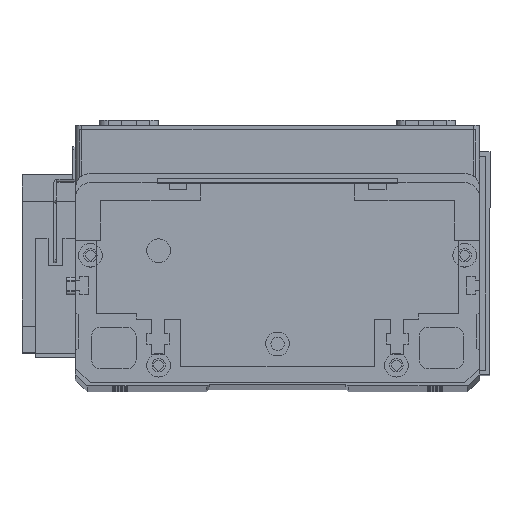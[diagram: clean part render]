
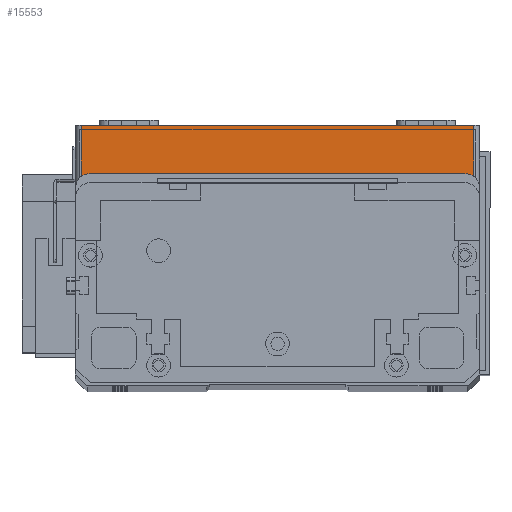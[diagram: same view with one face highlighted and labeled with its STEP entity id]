
A CAD part, top view. The second image highlights one B-rep face of the part: STEP entity #15553.
In plain terms, the highlighted planar face has unit normal (0, 0, 1) as drawn and (0, -1, 0) by its records, which use the part's own axes.
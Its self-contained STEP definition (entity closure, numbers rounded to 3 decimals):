
#28 = ORIENTED_EDGE ( 'NONE', *, *, #8689, .T. ) ;
#1525 = VECTOR ( 'NONE', #23240, 1000. ) ;
#5647 = VERTEX_POINT ( 'NONE', #18341 ) ;
#7241 = ORIENTED_EDGE ( 'NONE', *, *, #13703, .T. ) ;
#7340 = CARTESIAN_POINT ( 'NONE',  ( 134., 0., 19.5 ) ) ;
#7864 = FACE_OUTER_BOUND ( 'NONE', #10654, .T. ) ;
#8393 = VERTEX_POINT ( 'NONE', #27022 ) ;
#8564 = VECTOR ( 'NONE', #28639, 1000. ) ;
#8689 = EDGE_CURVE ( 'NONE', #5647, #27744, #22070, .T. ) ;
#9919 = VECTOR ( 'NONE', #26023, 1000. ) ;
#9974 = LINE ( 'NONE', #28779, #8564 ) ;
#10654 = EDGE_LOOP ( 'NONE', ( #13426, #7241, #28, #12780 ) ) ;
#12780 = ORIENTED_EDGE ( 'NONE', *, *, #15723, .T. ) ;
#13426 = ORIENTED_EDGE ( 'NONE', *, *, #15799, .F. ) ;
#13703 = EDGE_CURVE ( 'NONE', #8393, #5647, #9974, .T. ) ;
#14887 = LINE ( 'NONE', #23102, #1525 ) ;
#15553 = ADVANCED_FACE ( 'NONE', ( #7864 ), #26277, .F. ) ;
#15723 = EDGE_CURVE ( 'NONE', #27744, #24738, #14887, .T. ) ;
#15799 = EDGE_CURVE ( 'NONE', #8393, #24738, #23514, .T. ) ;
#18341 = CARTESIAN_POINT ( 'NONE',  ( 2., 0., 0. ) ) ;
#19714 = CARTESIAN_POINT ( 'NONE',  ( 134., 0., 0. ) ) ;
#20834 = AXIS2_PLACEMENT_3D ( 'NONE', #26309, #26221, #26212 ) ;
#21516 = DIRECTION ( 'NONE',  ( 1., 0., 0. ) ) ;
#21677 = CARTESIAN_POINT ( 'NONE',  ( 0., 0., 19.5 ) ) ;
#22070 = LINE ( 'NONE', #25930, #9919 ) ;
#23102 = CARTESIAN_POINT ( 'NONE',  ( 134., 0., 19.5 ) ) ;
#23240 = DIRECTION ( 'NONE',  ( 0., 0., 1. ) ) ;
#23514 = LINE ( 'NONE', #21677, #24187 ) ;
#24187 = VECTOR ( 'NONE', #21516, 1000. ) ;
#24738 = VERTEX_POINT ( 'NONE', #7340 ) ;
#25930 = CARTESIAN_POINT ( 'NONE',  ( 0., 0., 0. ) ) ;
#26023 = DIRECTION ( 'NONE',  ( 1., 0., 0. ) ) ;
#26212 = DIRECTION ( 'NONE',  ( 0., 0., 1. ) ) ;
#26221 = DIRECTION ( 'NONE',  ( 0., 1., 0. ) ) ;
#26277 = PLANE ( 'NONE',  #20834 ) ;
#26309 = CARTESIAN_POINT ( 'NONE',  ( 0., 0., 19.5 ) ) ;
#27022 = CARTESIAN_POINT ( 'NONE',  ( 2., 0., 19.5 ) ) ;
#27744 = VERTEX_POINT ( 'NONE', #19714 ) ;
#28639 = DIRECTION ( 'NONE',  ( 0., 0., -1. ) ) ;
#28779 = CARTESIAN_POINT ( 'NONE',  ( 2., 0., 19.5 ) ) ;
